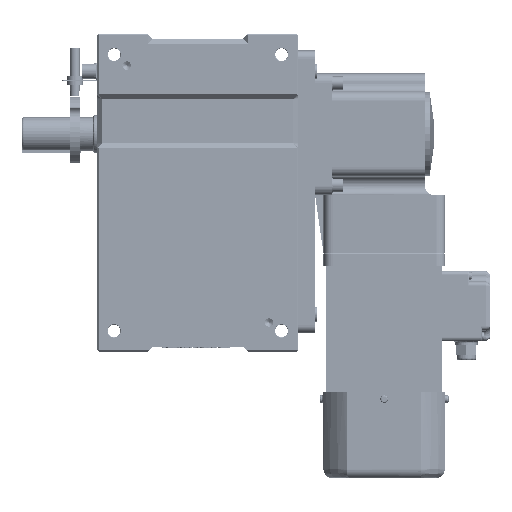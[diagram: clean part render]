
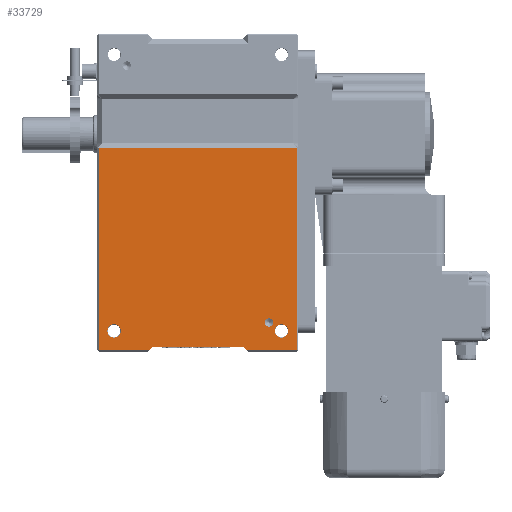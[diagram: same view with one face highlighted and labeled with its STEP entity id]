
A CAD part, front view. The second image highlights one B-rep face of the part: STEP entity #33729.
In plain terms, the highlighted planar face has unit normal (0, -1, 0).
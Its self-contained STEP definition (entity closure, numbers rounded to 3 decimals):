
#4201 = CARTESIAN_POINT ( 'NONE',  ( 0., -130., -188. ) ) ;
#4655 = CARTESIAN_POINT ( 'NONE',  ( -54., -130., -184. ) ) ;
#5386 = CARTESIAN_POINT ( 'NONE',  ( 85., -130., -155. ) ) ;
#8722 = CARTESIAN_POINT ( 'NONE',  ( 0., -130., 53. ) ) ;
#9765 = ORIENTED_EDGE ( 'NONE', *, *, #76595, .F. ) ;
#10277 = AXIS2_PLACEMENT_3D ( 'NONE', #50879, #174024, #68690 ) ;
#12012 = ORIENTED_EDGE ( 'NONE', *, *, #209548, .F. ) ;
#23192 = DIRECTION ( 'NONE',  ( 0., 0., -1. ) ) ;
#23711 = DIRECTION ( 'NONE',  ( 0., -1., 0. ) ) ;
#24188 = DIRECTION ( 'NONE',  ( 0., -1., 0. ) ) ;
#26568 = DIRECTION ( 'NONE',  ( 1., 0., 0. ) ) ;
#26604 = EDGE_LOOP ( 'NONE', ( #203150, #226240 ) ) ;
#28050 = VERTEX_POINT ( 'NONE', #196286 ) ;
#29919 = LINE ( 'NONE', #4201, #123832 ) ;
#33729 = ADVANCED_FACE ( 'NONE', ( #144186, #97517, #190794, #50374 ), #208009, .F. ) ;
#35429 = CARTESIAN_POINT ( 'NONE',  ( -100., -130., -156.975 ) ) ;
#37348 = AXIS2_PLACEMENT_3D ( 'NONE', #43048, #166311, #60899 ) ;
#39455 = LINE ( 'NONE', #4655, #221191 ) ;
#40124 = VECTOR ( 'NONE', #163987, 1000. ) ;
#41301 = CARTESIAN_POINT ( 'NONE',  ( 0., -130., -184. ) ) ;
#42792 = DIRECTION ( 'NONE',  ( -1., 0., 0. ) ) ;
#43048 = CARTESIAN_POINT ( 'NONE',  ( -100., -130., -165. ) ) ;
#44851 = CARTESIAN_POINT ( 'NONE',  ( -100., -130., -173.025 ) ) ;
#45028 = CARTESIAN_POINT ( 'NONE',  ( 58., -130., -188. ) ) ;
#50128 = CIRCLE ( 'NONE', #37348, 8.025 ) ;
#50374 = FACE_BOUND ( 'NONE', #26604, .T. ) ;
#50879 = CARTESIAN_POINT ( 'NONE',  ( 100., -130., -165. ) ) ;
#52434 = AXIS2_PLACEMENT_3D ( 'NONE', #129532, #23711, #147178 ) ;
#53006 = DIRECTION ( 'NONE',  ( 0., 0., 1. ) ) ;
#53186 = VERTEX_POINT ( 'NONE', #66337 ) ;
#54933 = LINE ( 'NONE', #8722, #189826 ) ;
#57670 = EDGE_CURVE ( 'NONE', #97979, #82654, #59700, .T. ) ;
#59700 = CIRCLE ( 'NONE', #10277, 8.025 ) ;
#60899 = DIRECTION ( 'NONE',  ( 0., 0., -1. ) ) ;
#61796 = VERTEX_POINT ( 'NONE', #209942 ) ;
#66337 = CARTESIAN_POINT ( 'NONE',  ( 58., -130., -188. ) ) ;
#66944 = EDGE_LOOP ( 'NONE', ( #182715, #213742, #130447, #12012, #189358, #67931, #78130, #143329 ) ) ;
#67931 = ORIENTED_EDGE ( 'NONE', *, *, #179977, .F. ) ;
#68158 = DIRECTION ( 'NONE',  ( 0., 1., 0. ) ) ;
#68690 = DIRECTION ( 'NONE',  ( 0., 0., -1. ) ) ;
#69545 = EDGE_CURVE ( 'NONE', #214117, #89011, #50128, .T. ) ;
#71920 = VECTOR ( 'NONE', #129360, 1000. ) ;
#75417 = CARTESIAN_POINT ( 'NONE',  ( -118., -130., 53. ) ) ;
#76595 = EDGE_CURVE ( 'NONE', #89011, #214117, #107538, .T. ) ;
#76693 = AXIS2_PLACEMENT_3D ( 'NONE', #173483, #68158, #191128 ) ;
#77101 = CARTESIAN_POINT ( 'NONE',  ( 100., -130., -165. ) ) ;
#77485 = LINE ( 'NONE', #41301, #71920 ) ;
#78130 = ORIENTED_EDGE ( 'NONE', *, *, #175402, .F. ) ;
#80345 = CARTESIAN_POINT ( 'NONE',  ( 85., -130., -160.025 ) ) ;
#82654 = VERTEX_POINT ( 'NONE', #220692 ) ;
#86592 = CARTESIAN_POINT ( 'NONE',  ( 54., -130., -184. ) ) ;
#89011 = VERTEX_POINT ( 'NONE', #35429 ) ;
#90802 = VECTOR ( 'NONE', #53006, 1000. ) ;
#92175 = VERTEX_POINT ( 'NONE', #225757 ) ;
#93827 = LINE ( 'NONE', #45028, #135177 ) ;
#94898 = DIRECTION ( 'NONE',  ( 0., 0., -1. ) ) ;
#96771 = EDGE_CURVE ( 'NONE', #224682, #28050, #180451, .T. ) ;
#97517 = FACE_BOUND ( 'NONE', #131828, .T. ) ;
#97979 = VERTEX_POINT ( 'NONE', #219569 ) ;
#105576 = CARTESIAN_POINT ( 'NONE',  ( -118., -130., 0. ) ) ;
#107538 = CIRCLE ( 'NONE', #178308, 8.025 ) ;
#111023 = CARTESIAN_POINT ( 'NONE',  ( 118., -130., 0. ) ) ;
#113867 = EDGE_CURVE ( 'NONE', #53186, #200057, #93827, .T. ) ;
#114801 = CIRCLE ( 'NONE', #52434, 5.025 ) ;
#115062 = AXIS2_PLACEMENT_3D ( 'NONE', #77101, #200025, #94898 ) ;
#119100 = VERTEX_POINT ( 'NONE', #225360 ) ;
#122266 = VERTEX_POINT ( 'NONE', #75417 ) ;
#123832 = VECTOR ( 'NONE', #127056, 1000. ) ;
#125821 = CIRCLE ( 'NONE', #115062, 8.025 ) ;
#127056 = DIRECTION ( 'NONE',  ( -1., 0., 0. ) ) ;
#129033 = DIRECTION ( 'NONE',  ( 0., -1., 0. ) ) ;
#129360 = DIRECTION ( 'NONE',  ( -1., 0., 0. ) ) ;
#129532 = CARTESIAN_POINT ( 'NONE',  ( 85., -130., -155. ) ) ;
#129997 = CARTESIAN_POINT ( 'NONE',  ( -100., -130., -165. ) ) ;
#130447 = ORIENTED_EDGE ( 'NONE', *, *, #228469, .F. ) ;
#131302 = EDGE_CURVE ( 'NONE', #82654, #97979, #125821, .T. ) ;
#131828 = EDGE_LOOP ( 'NONE', ( #173362, #198045 ) ) ;
#133040 = DIRECTION ( 'NONE',  ( -0.707, 0., 0.707 ) ) ;
#134630 = VERTEX_POINT ( 'NONE', #208323 ) ;
#135177 = VECTOR ( 'NONE', #133040, 1000. ) ;
#136826 = EDGE_CURVE ( 'NONE', #122266, #119100, #54933, .T. ) ;
#143329 = ORIENTED_EDGE ( 'NONE', *, *, #136826, .F. ) ;
#144186 = FACE_OUTER_BOUND ( 'NONE', #66944, .T. ) ;
#145428 = EDGE_LOOP ( 'NONE', ( #183187, #9765 ) ) ;
#147178 = DIRECTION ( 'NONE',  ( 0., 0., -1. ) ) ;
#147658 = DIRECTION ( 'NONE',  ( 0., 0., -1. ) ) ;
#148672 = LINE ( 'NONE', #105576, #90802 ) ;
#153075 = AXIS2_PLACEMENT_3D ( 'NONE', #5386, #129033, #23192 ) ;
#163531 = DIRECTION ( 'NONE',  ( -0.707, 0., -0.707 ) ) ;
#163987 = DIRECTION ( 'NONE',  ( 0., 0., -1. ) ) ;
#166311 = DIRECTION ( 'NONE',  ( 0., -1., 0. ) ) ;
#173362 = ORIENTED_EDGE ( 'NONE', *, *, #57670, .F. ) ;
#173483 = CARTESIAN_POINT ( 'NONE',  ( 0., -130., 0. ) ) ;
#174024 = DIRECTION ( 'NONE',  ( 0., -1., 0. ) ) ;
#175138 = LINE ( 'NONE', #111023, #40124 ) ;
#175402 = EDGE_CURVE ( 'NONE', #119100, #92175, #175138, .T. ) ;
#178308 = AXIS2_PLACEMENT_3D ( 'NONE', #129997, #24188, #147658 ) ;
#179977 = EDGE_CURVE ( 'NONE', #92175, #53186, #185979, .T. ) ;
#180451 = CIRCLE ( 'NONE', #153075, 5.025 ) ;
#182715 = ORIENTED_EDGE ( 'NONE', *, *, #212209, .F. ) ;
#183187 = ORIENTED_EDGE ( 'NONE', *, *, #69545, .F. ) ;
#185979 = LINE ( 'NONE', #200538, #226989 ) ;
#189358 = ORIENTED_EDGE ( 'NONE', *, *, #113867, .F. ) ;
#189826 = VECTOR ( 'NONE', #26568, 1000. ) ;
#190794 = FACE_BOUND ( 'NONE', #145428, .T. ) ;
#191128 = DIRECTION ( 'NONE',  ( 0., 0., 1. ) ) ;
#191355 = VERTEX_POINT ( 'NONE', #227093 ) ;
#196286 = CARTESIAN_POINT ( 'NONE',  ( 85., -130., -149.975 ) ) ;
#198045 = ORIENTED_EDGE ( 'NONE', *, *, #131302, .F. ) ;
#200025 = DIRECTION ( 'NONE',  ( 0., -1., 0. ) ) ;
#200057 = VERTEX_POINT ( 'NONE', #86592 ) ;
#200538 = CARTESIAN_POINT ( 'NONE',  ( 0., -130., -188. ) ) ;
#203150 = ORIENTED_EDGE ( 'NONE', *, *, #96771, .F. ) ;
#208009 = PLANE ( 'NONE',  #76693 ) ;
#208323 = CARTESIAN_POINT ( 'NONE',  ( -54., -130., -184. ) ) ;
#209548 = EDGE_CURVE ( 'NONE', #200057, #134630, #77485, .T. ) ;
#209942 = CARTESIAN_POINT ( 'NONE',  ( -118., -130., -188. ) ) ;
#212209 = EDGE_CURVE ( 'NONE', #61796, #122266, #148672, .T. ) ;
#213742 = ORIENTED_EDGE ( 'NONE', *, *, #224009, .F. ) ;
#214117 = VERTEX_POINT ( 'NONE', #44851 ) ;
#214842 = EDGE_CURVE ( 'NONE', #28050, #224682, #114801, .T. ) ;
#219569 = CARTESIAN_POINT ( 'NONE',  ( 100., -130., -173.025 ) ) ;
#220692 = CARTESIAN_POINT ( 'NONE',  ( 100., -130., -156.975 ) ) ;
#221191 = VECTOR ( 'NONE', #163531, 1000. ) ;
#224009 = EDGE_CURVE ( 'NONE', #191355, #61796, #29919, .T. ) ;
#224682 = VERTEX_POINT ( 'NONE', #80345 ) ;
#225360 = CARTESIAN_POINT ( 'NONE',  ( 118., -130., 53. ) ) ;
#225757 = CARTESIAN_POINT ( 'NONE',  ( 118., -130., -188. ) ) ;
#226240 = ORIENTED_EDGE ( 'NONE', *, *, #214842, .F. ) ;
#226989 = VECTOR ( 'NONE', #42792, 1000. ) ;
#227093 = CARTESIAN_POINT ( 'NONE',  ( -58., -130., -188. ) ) ;
#228469 = EDGE_CURVE ( 'NONE', #134630, #191355, #39455, .T. ) ;
